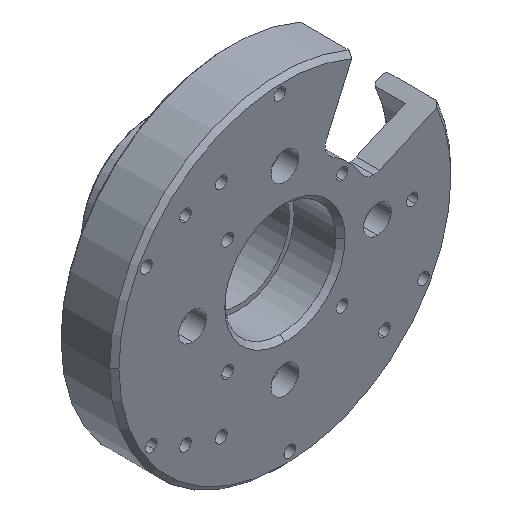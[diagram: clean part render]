
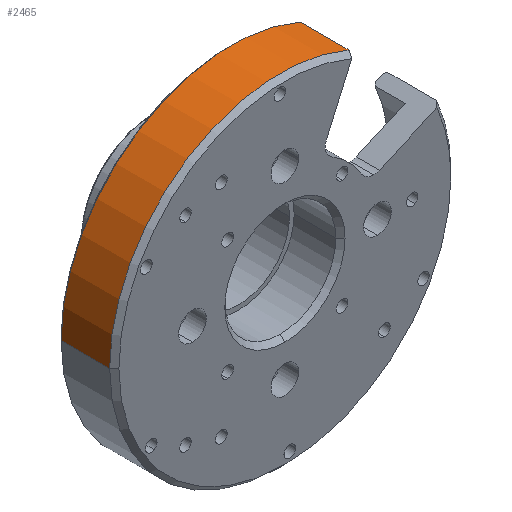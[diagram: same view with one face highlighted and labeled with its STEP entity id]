
A CAD part, isometric view. The second image highlights one B-rep face of the part: STEP entity #2465.
In plain terms, the highlighted cylindrical face has radius 36.9 mm (diameter 73.8 mm), a partial arc.
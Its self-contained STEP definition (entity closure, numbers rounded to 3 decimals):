
#129 = VERTEX_POINT ( 'NONE', #1851 ) ;
#173 = AXIS2_PLACEMENT_3D ( 'NONE', #1267, #862, #2380 ) ;
#306 = CARTESIAN_POINT ( 'NONE',  ( 14.866, 1., 33.773 ) ) ;
#342 = LINE ( 'NONE', #1004, #4515 ) ;
#396 = EDGE_LOOP ( 'NONE', ( #1258, #4076, #1379, #4169 ) ) ;
#656 = VECTOR ( 'NONE', #4533, 1000. ) ;
#862 = DIRECTION ( 'NONE',  ( 0., 1., 0. ) ) ;
#1004 = CARTESIAN_POINT ( 'NONE',  ( -36.9, 1., 0. ) ) ;
#1066 = VERTEX_POINT ( 'NONE', #306 ) ;
#1258 = ORIENTED_EDGE ( 'NONE', *, *, #3024, .T. ) ;
#1267 = CARTESIAN_POINT ( 'NONE',  ( 0., 1., 0. ) ) ;
#1379 = ORIENTED_EDGE ( 'NONE', *, *, #3942, .F. ) ;
#1487 = CARTESIAN_POINT ( 'NONE',  ( 14.866, 29.925, 33.773 ) ) ;
#1615 = CARTESIAN_POINT ( 'NONE',  ( 0., 29.925, 0. ) ) ;
#1833 = CARTESIAN_POINT ( 'NONE',  ( 0., 11.5, 0. ) ) ;
#1851 = CARTESIAN_POINT ( 'NONE',  ( -36.9, 11.5, 0. ) ) ;
#1859 = CIRCLE ( 'NONE', #2254, 36.9 ) ;
#1995 = CYLINDRICAL_SURFACE ( 'NONE', #2801, 36.9 ) ;
#2020 = FACE_OUTER_BOUND ( 'NONE', #396, .T. ) ;
#2254 = AXIS2_PLACEMENT_3D ( 'NONE', #1833, #2561, #4518 ) ;
#2380 = DIRECTION ( 'NONE',  ( -1., 0., 0. ) ) ;
#2400 = CIRCLE ( 'NONE', #173, 36.9 ) ;
#2465 = ADVANCED_FACE ( 'NONE', ( #2020 ), #1995, .T. ) ;
#2523 = DIRECTION ( 'NONE',  ( 0., 1., 0. ) ) ;
#2561 = DIRECTION ( 'NONE',  ( 0., 1., 0. ) ) ;
#2671 = CARTESIAN_POINT ( 'NONE',  ( 14.866, 11.5, 33.773 ) ) ;
#2798 = VERTEX_POINT ( 'NONE', #2671 ) ;
#2801 = AXIS2_PLACEMENT_3D ( 'NONE', #1615, #3555, #3157 ) ;
#3024 = EDGE_CURVE ( 'NONE', #4751, #1066, #2400, .T. ) ;
#3157 = DIRECTION ( 'NONE',  ( -1., 0., 0. ) ) ;
#3182 = CARTESIAN_POINT ( 'NONE',  ( -36.9, 1., 0. ) ) ;
#3458 = EDGE_CURVE ( 'NONE', #1066, #2798, #4907, .T. ) ;
#3555 = DIRECTION ( 'NONE',  ( 0., -1., 0. ) ) ;
#3942 = EDGE_CURVE ( 'NONE', #129, #2798, #1859, .T. ) ;
#4076 = ORIENTED_EDGE ( 'NONE', *, *, #3458, .T. ) ;
#4169 = ORIENTED_EDGE ( 'NONE', *, *, #4466, .F. ) ;
#4466 = EDGE_CURVE ( 'NONE', #4751, #129, #342, .T. ) ;
#4515 = VECTOR ( 'NONE', #2523, 1000. ) ;
#4518 = DIRECTION ( 'NONE',  ( -1., 0., 0. ) ) ;
#4533 = DIRECTION ( 'NONE',  ( 0., 1., 0. ) ) ;
#4751 = VERTEX_POINT ( 'NONE', #3182 ) ;
#4907 = LINE ( 'NONE', #1487, #656 ) ;
